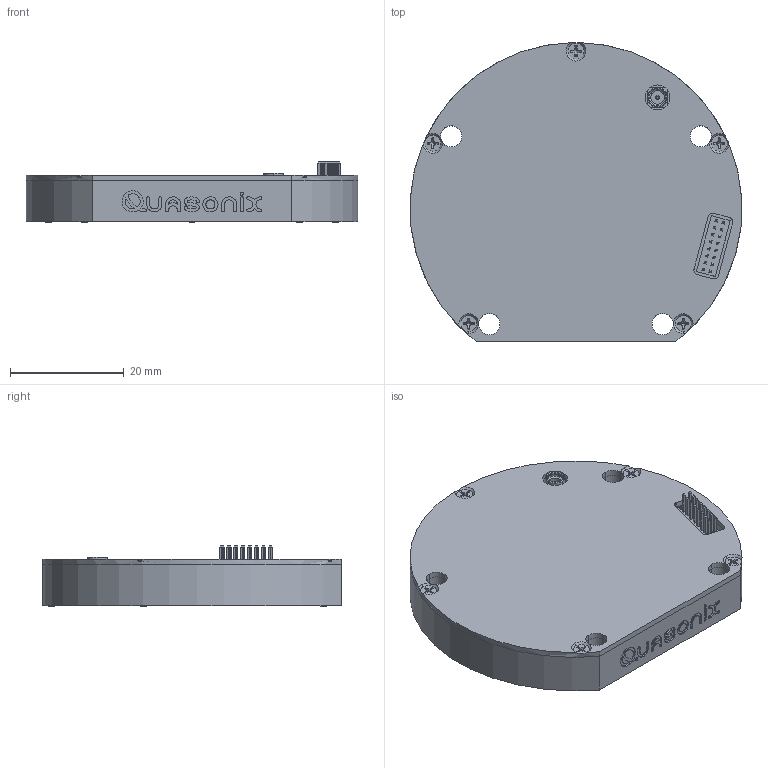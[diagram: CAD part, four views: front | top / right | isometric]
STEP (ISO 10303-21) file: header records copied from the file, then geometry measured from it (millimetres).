
FILE_DESCRIPTION (( 'STEP AP203' ), '1' );
FILE_NAME ('01PM.STEP', '2026-07-16T19:00:12', ( '' ), ( '' ), 'SwSTEP 2.0', 'SolidWorks 2026', '' );
FILE_SCHEMA (( 'CONFIG_CONTROL_DESIGN' ));
Length unit declared in the file: inch
Products named in the file (1): 01PM
Bounding box: 58.32 x 52.58 x 10.62 mm (x, y, z)
Volume: 13650.5 mm3; surface area: 19487.3 mm2
Topology: 11 solids, 11 shells, 1150 faces, 3194 edges, 2089 vertices
Faces by surface type: plane 488, cylinder 446, cone 126, bspline 75, torus 13, sphere 2
Entity records: 51899 total; most frequent: CARTESIAN_POINT 23812, ORIENTED_EDGE 6368, DIRECTION 5239, EDGE_CURVE 3184, VERTEX_POINT 2089, AXIS2_PLACEMENT_3D 1756, LINE 1727, VECTOR 1727
